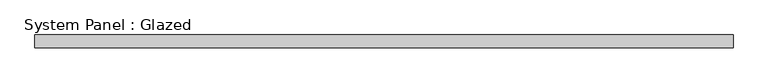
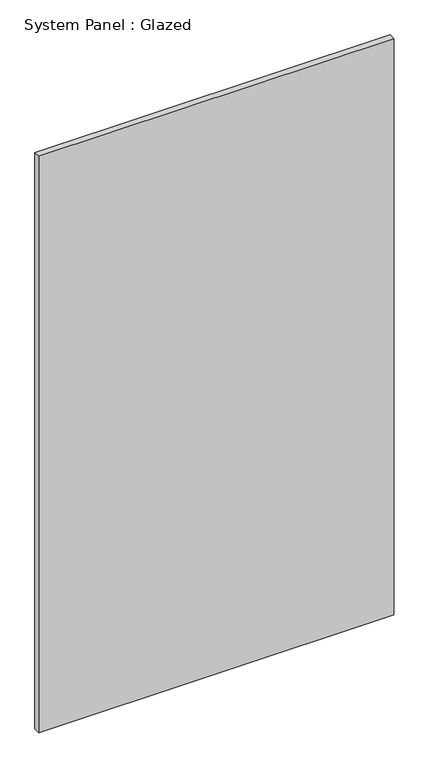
"""IFC4 building model written with IfcOpenShell, lengths in millimetres: plate geometry, System Panel : Glazed."""

from ifc_helpers import new_model, si_unit, origin, origin_with_axes, place, context, project, spatial, polyline, outline, extrude, source, transform, mapped, element, save


def system_panel_glazed_e0fa8d18(model_context):
    return source(origin(), model_context, "Body", "SweptSolid", [
        extrude(outline(polyline([(688.6640643, -49.5), (-688.6640643, -49.5), (-688.6640643, -24.5), (688.6640643, -24.5), (688.6640643, -49.5)])), origin_with_axes(), (0.0, 0.0, 1.0), 2365.0),
    ])


if __name__ == "__main__":
    model = new_model("IFC4")
    model_context = context("Model", 3, world=origin())
    ifc_project = project(units=[si_unit("LENGTHUNIT", "METRE", prefix="MILLI")], contexts=[model_context])
    site = spatial("IfcSite", under=ifc_project)
    building = spatial("IfcBuilding", under=site)
    placement = place(None, origin())
    system_panel_glazed_shape = system_panel_glazed_e0fa8d18(model_context)
    element("IfcPlate", 1, ObjectType="System Panel : Glazed", at=placement, inside=building, context=model_context, shape_type="MappedRepresentation", body=[
        mapped(system_panel_glazed_shape, transform((0.0, 0.0, 0.0), x_axis=(1.0, 0.0, 0.0), y_axis=(0.0, 1.0, 0.0), z_axis=(0.0, 0.0, 1.0))),
    ])
    save(model, "model.ifc")
